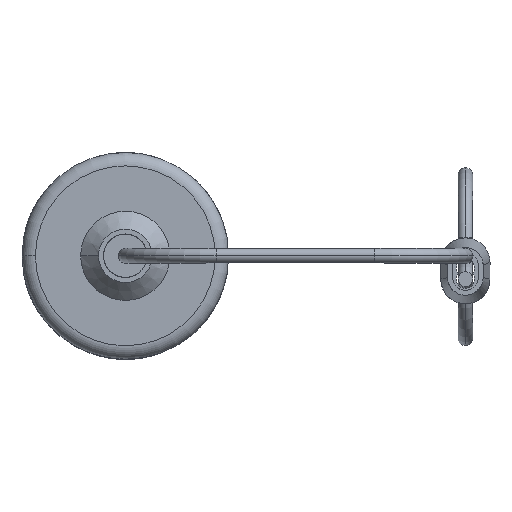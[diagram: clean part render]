
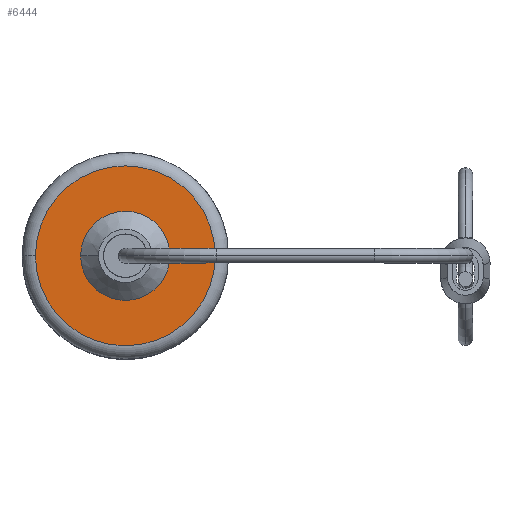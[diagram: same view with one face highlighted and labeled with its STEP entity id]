
A CAD part, top view. The second image highlights one B-rep face of the part: STEP entity #6444.
In plain terms, the highlighted planar face has unit normal (0, 0, 1).
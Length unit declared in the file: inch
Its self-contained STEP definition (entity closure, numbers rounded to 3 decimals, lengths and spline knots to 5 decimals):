
#34 = CARTESIAN_POINT ( 'NONE',  ( -0.19685, 0., 1.08658 ) ) ;
#225 = DIRECTION ( 'NONE',  ( -1., 0., 0. ) ) ;
#428 = VERTEX_POINT ( 'NONE', #6085 ) ;
#755 = ORIENTED_EDGE ( 'NONE', *, *, #4227, .F. ) ;
#1191 = CARTESIAN_POINT ( 'NONE',  ( 0., 0., 1.08658 ) ) ;
#1251 = CIRCLE ( 'NONE', #7012, 0.19685 ) ;
#1305 = DIRECTION ( 'NONE',  ( 0., 0., 1. ) ) ;
#1931 = DIRECTION ( 'NONE',  ( 0., 0., -1. ) ) ;
#2531 = AXIS2_PLACEMENT_3D ( 'NONE', #8628, #1931, #7868 ) ;
#2716 = CARTESIAN_POINT ( 'NONE',  ( 0., 0., 1.08658 ) ) ;
#3367 = PLANE ( 'NONE',  #2531 ) ;
#3382 = DIRECTION ( 'NONE',  ( 0., 0., 1. ) ) ;
#4063 = AXIS2_PLACEMENT_3D ( 'NONE', #2716, #3382, #9391 ) ;
#4176 = DIRECTION ( 'NONE',  ( 0., 0., 1. ) ) ;
#4227 = EDGE_CURVE ( 'NONE', #5433, #5126, #1251, .T. ) ;
#4235 = AXIS2_PLACEMENT_3D ( 'NONE', #9547, #1305, #9396 ) ;
#4259 = CARTESIAN_POINT ( 'NONE',  ( 0.19685, 0., 1.08658 ) ) ;
#4339 = EDGE_CURVE ( 'NONE', #428, #9437, #6711, .T. ) ;
#4526 = EDGE_LOOP ( 'NONE', ( #8631, #5352 ) ) ;
#5126 = VERTEX_POINT ( 'NONE', #34 ) ;
#5352 = ORIENTED_EDGE ( 'NONE', *, *, #6141, .T. ) ;
#5433 = VERTEX_POINT ( 'NONE', #4259 ) ;
#5673 = CARTESIAN_POINT ( 'NONE',  ( 0.39665, 0., 1.08658 ) ) ;
#6085 = CARTESIAN_POINT ( 'NONE',  ( -0.39665, 0., 1.08658 ) ) ;
#6141 = EDGE_CURVE ( 'NONE', #9437, #428, #7025, .T. ) ;
#6419 = AXIS2_PLACEMENT_3D ( 'NONE', #1191, #4176, #7139 ) ;
#6444 = ADVANCED_FACE ( 'NONE', ( #9191, #6954 ), #3367, .F. ) ;
#6711 = CIRCLE ( 'NONE', #4063, 0.39665 ) ;
#6758 = ORIENTED_EDGE ( 'NONE', *, *, #6966, .F. ) ;
#6954 = FACE_OUTER_BOUND ( 'NONE', #4526, .T. ) ;
#6966 = EDGE_CURVE ( 'NONE', #5126, #5433, #8784, .T. ) ;
#7012 = AXIS2_PLACEMENT_3D ( 'NONE', #8453, #9108, #225 ) ;
#7025 = CIRCLE ( 'NONE', #4235, 0.39665 ) ;
#7139 = DIRECTION ( 'NONE',  ( -1., 0., 0. ) ) ;
#7868 = DIRECTION ( 'NONE',  ( 1., 0., 0. ) ) ;
#7894 = EDGE_LOOP ( 'NONE', ( #755, #6758 ) ) ;
#8453 = CARTESIAN_POINT ( 'NONE',  ( 0., 0., 1.08658 ) ) ;
#8628 = CARTESIAN_POINT ( 'NONE',  ( 0., -0.19685, 1.08658 ) ) ;
#8631 = ORIENTED_EDGE ( 'NONE', *, *, #4339, .T. ) ;
#8784 = CIRCLE ( 'NONE', #6419, 0.19685 ) ;
#9108 = DIRECTION ( 'NONE',  ( 0., 0., 1. ) ) ;
#9191 = FACE_BOUND ( 'NONE', #7894, .T. ) ;
#9391 = DIRECTION ( 'NONE',  ( -1., 0., 0. ) ) ;
#9396 = DIRECTION ( 'NONE',  ( -1., 0., 0. ) ) ;
#9437 = VERTEX_POINT ( 'NONE', #5673 ) ;
#9547 = CARTESIAN_POINT ( 'NONE',  ( 0., 0., 1.08658 ) ) ;
